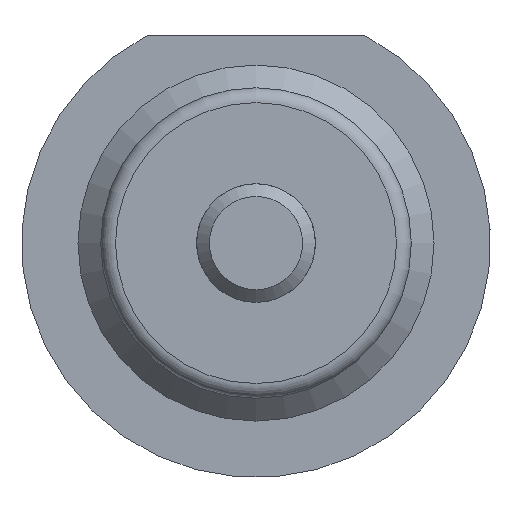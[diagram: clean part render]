
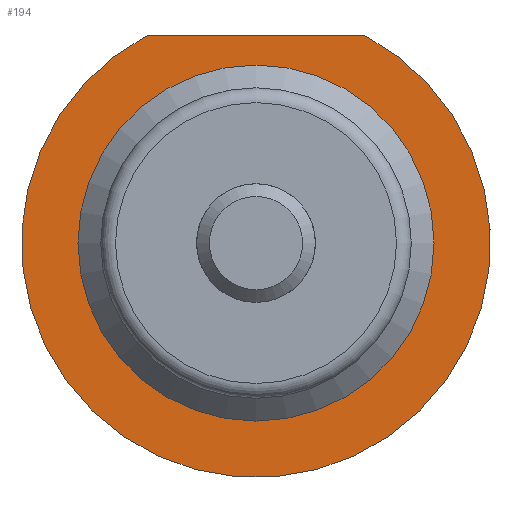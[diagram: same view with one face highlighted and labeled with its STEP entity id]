
A CAD part, left-side view. The second image highlights one B-rep face of the part: STEP entity #194.
In plain terms, the highlighted planar face has unit normal (-1, 0, 0).
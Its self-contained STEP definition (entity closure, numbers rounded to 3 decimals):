
#194 = ADVANCED_FACE( '', ( #315, #316 ), #317, .F. );
#315 = FACE_OUTER_BOUND( '', #507, .T. );
#316 = FACE_BOUND( '', #508, .T. );
#317 = PLANE( '', #509 );
#507 = EDGE_LOOP( '', ( #765, #766 ) );
#508 = EDGE_LOOP( '', ( #767 ) );
#509 = AXIS2_PLACEMENT_3D( '', #768, #769, #770 );
#765 = ORIENTED_EDGE( '', *, *, #1086, .F. );
#766 = ORIENTED_EDGE( '', *, *, #1087, .T. );
#767 = ORIENTED_EDGE( '', *, *, #1084, .T. );
#768 = CARTESIAN_POINT( '', ( 0., 6., 0. ) );
#769 = DIRECTION( '', ( 1., 0., 0. ) );
#770 = DIRECTION( '', ( 0., 0., -1. ) );
#1084 = EDGE_CURVE( '', #1220, #1220, #1221, .T. );
#1086 = EDGE_CURVE( '', #1224, #1225, #1226, .T. );
#1087 = EDGE_CURVE( '', #1224, #1225, #1227, .T. );
#1220 = VERTEX_POINT( '', #1505 );
#1221 = CIRCLE( '', #1506, 6. );
#1224 = VERTEX_POINT( '', #1509 );
#1225 = VERTEX_POINT( '', #1510 );
#1226 = CIRCLE( '', #1511, 7.9 );
#1227 = LINE( '', #1512, #1513 );
#1505 = CARTESIAN_POINT( '', ( 0., 0., -6. ) );
#1506 = AXIS2_PLACEMENT_3D( '', #1736, #1737, #1738 );
#1509 = CARTESIAN_POINT( '', ( 0., -3.662, 7. ) );
#1510 = CARTESIAN_POINT( '', ( 0., 3.662, 7. ) );
#1511 = AXIS2_PLACEMENT_3D( '', #1742, #1743, #1744 );
#1512 = CARTESIAN_POINT( '', ( 0., -22.6, 7. ) );
#1513 = VECTOR( '', #1745, 1000. );
#1736 = CARTESIAN_POINT( '', ( 0., 0., 0. ) );
#1737 = DIRECTION( '', ( 1., 0., 0. ) );
#1738 = DIRECTION( '', ( 0., 0., -1. ) );
#1742 = CARTESIAN_POINT( '', ( 0., 0., 0. ) );
#1743 = DIRECTION( '', ( 1., 0., 0. ) );
#1744 = DIRECTION( '', ( 0., 0., -1. ) );
#1745 = DIRECTION( '', ( 0., 1., 0. ) );
